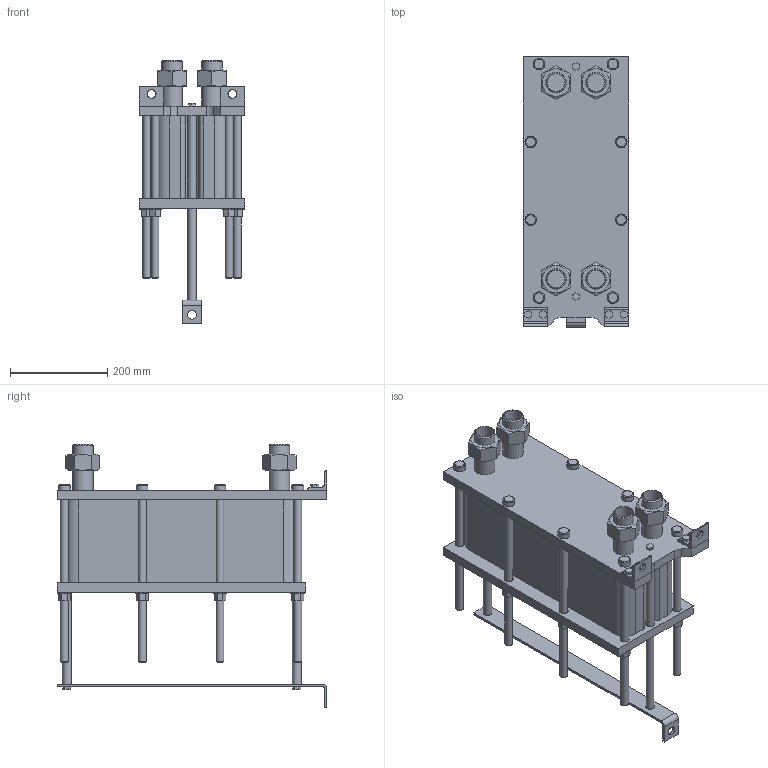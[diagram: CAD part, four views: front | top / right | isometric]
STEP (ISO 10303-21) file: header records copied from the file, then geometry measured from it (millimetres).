
FILE_DESCRIPTION(/* description */ (''),/* implementation_level */ '2;1');
FILE_NAME(/* name */ 'C:\Users\zhuro\Desktop\ENCO\TO\ЭН-004\ЭН-0,5-004-55-1.stp',/* time_stamp */ '2022-06-06T10:47:33+03:00',/* author */ ('zhuro'),/* organization */ (''),/* preprocessor_version */ 'ST-DEVELOPER v18.1',/* originating_system */ 'Autodesk Inventor 2022',/* authorisation */ '');
FILE_SCHEMA (('AUTOMOTIVE_DESIGN { 1 0 10303 214 3 1 1 }'));
Length unit declared in the file: millimetre
Products named in the file (1): ЭН-0,5-004-55-1
Bounding box: 216 x 555 x 541 mm (x, y, z)
Volume: 18383400.4 mm3; surface area: 1328107.8 mm2
Topology: 40 solids, 40 shells, 403 faces, 865 edges, 574 vertices
Faces by surface type: plane 272, cylinder 103, cone 28
Full cylindrical faces by diameter (mm): 10 x4, 16 x16, 18 x29, 20 x2, 24 x8, 28 x8, 36.3 x5, 42.3 x9
Entity records: 11137 total; most frequent: CARTESIAN_POINT 1939, DIRECTION 1879, ORIENTED_EDGE 1730, EDGE_CURVE 865, AXIS2_PLACEMENT_3D 658, VERTEX_POINT 574, LINE 563, VECTOR 563
